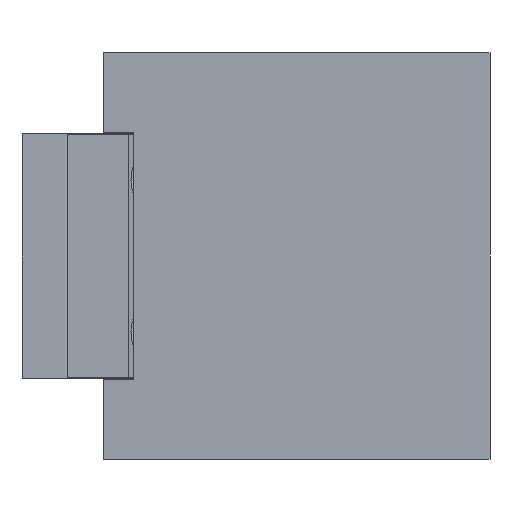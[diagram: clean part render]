
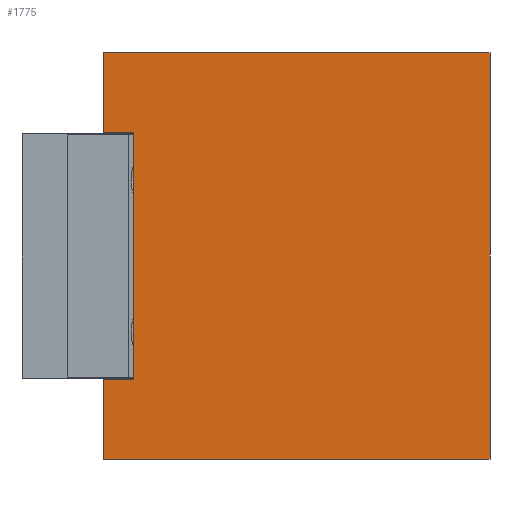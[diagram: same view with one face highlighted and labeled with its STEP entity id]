
A CAD part, left-side view. The second image highlights one B-rep face of the part: STEP entity #1775.
In plain terms, the highlighted planar face has unit normal (-1, 0, 0).
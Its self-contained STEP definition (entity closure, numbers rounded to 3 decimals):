
#32 = EDGE_CURVE ( 'NONE', #2011, #5135, #5588, .T. ) ;
#212 = LINE ( 'NONE', #981, #5096 ) ;
#390 = DIRECTION ( 'NONE',  ( 0., 0., 1. ) ) ;
#408 = DIRECTION ( 'NONE',  ( 0., 0., 1. ) ) ;
#452 = CARTESIAN_POINT ( 'NONE',  ( 0., 38., -40. ) ) ;
#500 = EDGE_CURVE ( 'NONE', #3455, #3346, #707, .T. ) ;
#569 = VECTOR ( 'NONE', #390, 1000. ) ;
#616 = CARTESIAN_POINT ( 'NONE',  ( 0., 35., -32.1 ) ) ;
#630 = VECTOR ( 'NONE', #5456, 1000. ) ;
#707 = LINE ( 'NONE', #1777, #569 ) ;
#891 = VECTOR ( 'NONE', #2894, 1000. ) ;
#981 = CARTESIAN_POINT ( 'NONE',  ( 0., 35., -7.9 ) ) ;
#1141 = DIRECTION ( 'NONE',  ( 0., 0., 1. ) ) ;
#1382 = EDGE_CURVE ( 'NONE', #2962, #1930, #4708, .T. ) ;
#1438 = EDGE_CURVE ( 'NONE', #3455, #1930, #1888, .T. ) ;
#1467 = LINE ( 'NONE', #1814, #2570 ) ;
#1611 = PLANE ( 'NONE',  #4913 ) ;
#1775 = ADVANCED_FACE ( 'NONE', ( #3877 ), #1611, .T. ) ;
#1777 = CARTESIAN_POINT ( 'NONE',  ( 0., 35., -32.1 ) ) ;
#1814 = CARTESIAN_POINT ( 'NONE',  ( 0., 0., -40. ) ) ;
#1821 = VECTOR ( 'NONE', #5052, 1000. ) ;
#1828 = CARTESIAN_POINT ( 'NONE',  ( 0., 38., -7.9 ) ) ;
#1888 = LINE ( 'NONE', #2624, #630 ) ;
#1930 = VERTEX_POINT ( 'NONE', #2210 ) ;
#2011 = VERTEX_POINT ( 'NONE', #3251 ) ;
#2099 = DIRECTION ( 'NONE',  ( -1., 0., 0. ) ) ;
#2210 = CARTESIAN_POINT ( 'NONE',  ( 0., 38., -32.1 ) ) ;
#2217 = CARTESIAN_POINT ( 'NONE',  ( 0., 0., 0. ) ) ;
#2423 = CARTESIAN_POINT ( 'NONE',  ( 0., 38., -40. ) ) ;
#2570 = VECTOR ( 'NONE', #408, 1000. ) ;
#2624 = CARTESIAN_POINT ( 'NONE',  ( 0., 35., -32.1 ) ) ;
#2849 = ORIENTED_EDGE ( 'NONE', *, *, #2899, .T. ) ;
#2894 = DIRECTION ( 'NONE',  ( 0., 0., 1. ) ) ;
#2896 = ORIENTED_EDGE ( 'NONE', *, *, #32, .F. ) ;
#2899 = EDGE_CURVE ( 'NONE', #2962, #4869, #4220, .T. ) ;
#2962 = VERTEX_POINT ( 'NONE', #452 ) ;
#3108 = ORIENTED_EDGE ( 'NONE', *, *, #1382, .F. ) ;
#3251 = CARTESIAN_POINT ( 'NONE',  ( 0., 38., 0. ) ) ;
#3334 = EDGE_CURVE ( 'NONE', #5234, #2011, #3531, .T. ) ;
#3346 = VERTEX_POINT ( 'NONE', #5705 ) ;
#3423 = ORIENTED_EDGE ( 'NONE', *, *, #4692, .T. ) ;
#3455 = VERTEX_POINT ( 'NONE', #616 ) ;
#3531 = LINE ( 'NONE', #2423, #891 ) ;
#3744 = ORIENTED_EDGE ( 'NONE', *, *, #3334, .F. ) ;
#3877 = FACE_OUTER_BOUND ( 'NONE', #5365, .T. ) ;
#4126 = CARTESIAN_POINT ( 'NONE',  ( 0., 0., 0. ) ) ;
#4220 = LINE ( 'NONE', #5119, #5306 ) ;
#4284 = ORIENTED_EDGE ( 'NONE', *, *, #5381, .F. ) ;
#4455 = CARTESIAN_POINT ( 'NONE',  ( 0., 38., -40. ) ) ;
#4552 = ORIENTED_EDGE ( 'NONE', *, *, #1438, .T. ) ;
#4692 = EDGE_CURVE ( 'NONE', #4869, #5135, #1467, .T. ) ;
#4708 = LINE ( 'NONE', #4455, #5924 ) ;
#4754 = CARTESIAN_POINT ( 'NONE',  ( 0., 0., -40. ) ) ;
#4757 = DIRECTION ( 'NONE',  ( 0., 1., 0. ) ) ;
#4869 = VERTEX_POINT ( 'NONE', #4754 ) ;
#4908 = CARTESIAN_POINT ( 'NONE',  ( 0., 0., -40. ) ) ;
#4913 = AXIS2_PLACEMENT_3D ( 'NONE', #4908, #2099, #5399 ) ;
#5052 = DIRECTION ( 'NONE',  ( 0., -1., 0. ) ) ;
#5096 = VECTOR ( 'NONE', #4757, 1000. ) ;
#5102 = DIRECTION ( 'NONE',  ( 0., -1., 0. ) ) ;
#5119 = CARTESIAN_POINT ( 'NONE',  ( 0., 0., -40. ) ) ;
#5135 = VERTEX_POINT ( 'NONE', #4126 ) ;
#5234 = VERTEX_POINT ( 'NONE', #1828 ) ;
#5306 = VECTOR ( 'NONE', #5102, 1000. ) ;
#5365 = EDGE_LOOP ( 'NONE', ( #4552, #3108, #2849, #3423, #2896, #3744, #4284, #5929 ) ) ;
#5381 = EDGE_CURVE ( 'NONE', #3346, #5234, #212, .T. ) ;
#5399 = DIRECTION ( 'NONE',  ( 0., 0., 1. ) ) ;
#5456 = DIRECTION ( 'NONE',  ( 0., 1., 0. ) ) ;
#5588 = LINE ( 'NONE', #2217, #1821 ) ;
#5705 = CARTESIAN_POINT ( 'NONE',  ( 0., 35., -7.9 ) ) ;
#5924 = VECTOR ( 'NONE', #1141, 1000. ) ;
#5929 = ORIENTED_EDGE ( 'NONE', *, *, #500, .F. ) ;
